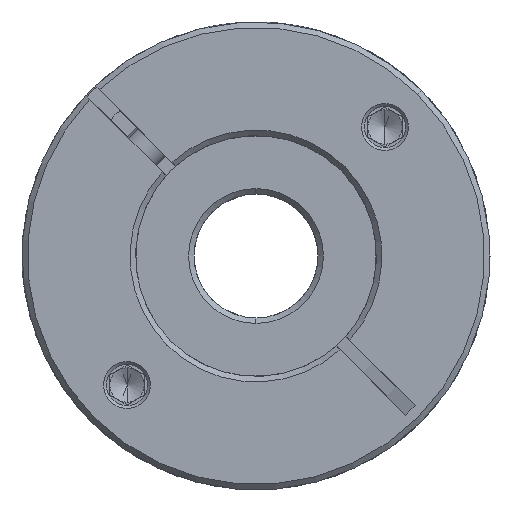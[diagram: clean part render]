
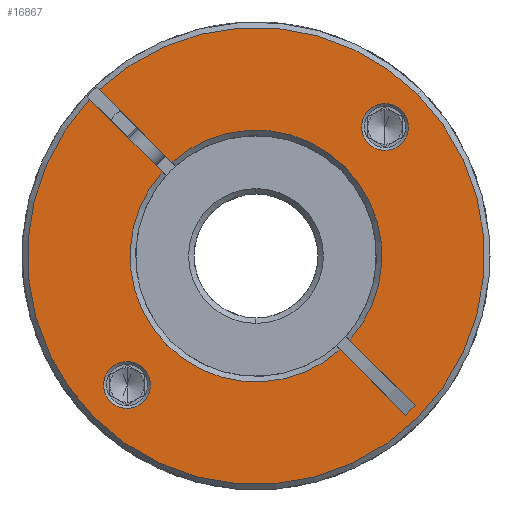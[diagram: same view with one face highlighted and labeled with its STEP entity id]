
A CAD part, front view. The second image highlights one B-rep face of the part: STEP entity #16867.
In plain terms, the highlighted planar face has unit normal (0, -1, 0).
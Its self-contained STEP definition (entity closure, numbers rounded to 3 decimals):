
#122 = EDGE_CURVE ( 'NONE', #346, #18845, #9893, .T. ) ;
#147 = CARTESIAN_POINT ( 'NONE',  ( 10.205, -67.045, 80.94 ) ) ;
#346 = VERTEX_POINT ( 'NONE', #14746 ) ;
#505 = CARTESIAN_POINT ( 'NONE',  ( -26.908, -67.045, 90.758 ) ) ;
#814 = LINE ( 'NONE', #5811, #21075 ) ;
#1003 = FACE_BOUND ( 'NONE', #8187, .T. ) ;
#1259 = CARTESIAN_POINT ( 'NONE',  ( -2.028, -67.045, 68.707 ) ) ;
#1485 = CIRCLE ( 'NONE', #18820, 3.4 ) ;
#1863 = DIRECTION ( 'NONE',  ( 0.707, 0., 0.707 ) ) ;
#1977 = AXIS2_PLACEMENT_3D ( 'NONE', #14212, #9259, #20815 ) ;
#2031 = CARTESIAN_POINT ( 'NONE',  ( -2.735, -67.045, 68. ) ) ;
#2118 = CIRCLE ( 'NONE', #9345, 18.3 ) ;
#2377 = DIRECTION ( 'NONE',  ( 0., 1., 0. ) ) ;
#2797 = DIRECTION ( 'NONE',  ( -0.707, 0., -0.707 ) ) ;
#2907 = AXIS2_PLACEMENT_3D ( 'NONE', #3929, #13861, #5727 ) ;
#3175 = ORIENTED_EDGE ( 'NONE', *, *, #8056, .T. ) ;
#3204 = AXIS2_PLACEMENT_3D ( 'NONE', #8767, #10440, #8906 ) ;
#3209 = CARTESIAN_POINT ( 'NONE',  ( -2.735, -67.045, 68. ) ) ;
#3246 = LINE ( 'NONE', #21304, #20839 ) ;
#3340 = CARTESIAN_POINT ( 'NONE',  ( -2.735, -67.045, 68. ) ) ;
#3376 = EDGE_CURVE ( 'NONE', #19504, #7277, #17495, .T. ) ;
#3463 = AXIS2_PLACEMENT_3D ( 'NONE', #4003, #7124, #5600 ) ;
#3766 = DIRECTION ( 'NONE',  ( 0., -1., 0. ) ) ;
#3802 = ORIENTED_EDGE ( 'NONE', *, *, #5898, .F. ) ;
#3929 = CARTESIAN_POINT ( 'NONE',  ( -2.735, -67.045, 68. ) ) ;
#3949 = ORIENTED_EDGE ( 'NONE', *, *, #10776, .T. ) ;
#4003 = CARTESIAN_POINT ( 'NONE',  ( -2.735, -67.045, 68. ) ) ;
#4128 = CARTESIAN_POINT ( 'NONE',  ( 16.003, -67.045, 86.738 ) ) ;
#4412 = ORIENTED_EDGE ( 'NONE', *, *, #5827, .T. ) ;
#5026 = DIRECTION ( 'NONE',  ( 0.707, 0., 0.707 ) ) ;
#5232 = AXIS2_PLACEMENT_3D ( 'NONE', #11805, #3766, #1863 ) ;
#5348 = CARTESIAN_POINT ( 'NONE',  ( -3.442, -67.045, 67.293 ) ) ;
#5422 = VERTEX_POINT ( 'NONE', #14050 ) ;
#5457 = AXIS2_PLACEMENT_3D ( 'NONE', #20432, #7364, #18300 ) ;
#5600 = DIRECTION ( 'NONE',  ( 0.707, 0., 0.707 ) ) ;
#5727 = DIRECTION ( 'NONE',  ( 0.707, 0., 0.707 ) ) ;
#5811 = CARTESIAN_POINT ( 'NONE',  ( 18.988, -67.045, 44.862 ) ) ;
#5827 = EDGE_CURVE ( 'NONE', #5422, #9278, #1485, .T. ) ;
#5898 = EDGE_CURVE ( 'NONE', #19961, #18845, #10348, .T. ) ;
#6132 = EDGE_LOOP ( 'NONE', ( #15378, #4412 ) ) ;
#6214 = DIRECTION ( 'NONE',  ( 0.707, 0., -0.707 ) ) ;
#6325 = CIRCLE ( 'NONE', #5457, 3.4 ) ;
#6900 = DIRECTION ( 'NONE',  ( 0.707, 0., 0.707 ) ) ;
#6930 = VERTEX_POINT ( 'NONE', #19768 ) ;
#7124 = DIRECTION ( 'NONE',  ( 0., -1., 0. ) ) ;
#7171 = CARTESIAN_POINT ( 'NONE',  ( -16.363, -67.045, 80.214 ) ) ;
#7241 = AXIS2_PLACEMENT_3D ( 'NONE', #15306, #18535, #15242 ) ;
#7277 = VERTEX_POINT ( 'NONE', #13211 ) ;
#7364 = DIRECTION ( 'NONE',  ( 0., 1., 0. ) ) ;
#7758 = CARTESIAN_POINT ( 'NONE',  ( -26.211, -67.045, 44.524 ) ) ;
#8015 = CARTESIAN_POINT ( 'NONE',  ( -25.493, -67.045, 92.172 ) ) ;
#8056 = EDGE_CURVE ( 'NONE', #7277, #9610, #18319, .T. ) ;
#8069 = EDGE_CURVE ( 'NONE', #6930, #9692, #10049, .T. ) ;
#8187 = EDGE_LOOP ( 'NONE', ( #9770, #20588 ) ) ;
#8767 = CARTESIAN_POINT ( 'NONE',  ( -2.735, -67.045, 68. ) ) ;
#8906 = DIRECTION ( 'NONE',  ( 0.707, 0., 0.707 ) ) ;
#9080 = FACE_OUTER_BOUND ( 'NONE', #15630, .T. ) ;
#9259 = DIRECTION ( 'NONE',  ( 0., 1., 0. ) ) ;
#9278 = VERTEX_POINT ( 'NONE', #15358 ) ;
#9345 = AXIS2_PLACEMENT_3D ( 'NONE', #3340, #16659, #10019 ) ;
#9407 = EDGE_CURVE ( 'NONE', #17053, #13087, #814, .T. ) ;
#9440 = EDGE_CURVE ( 'NONE', #9278, #5422, #6325, .T. ) ;
#9610 = VERTEX_POINT ( 'NONE', #8015 ) ;
#9692 = VERTEX_POINT ( 'NONE', #10782 ) ;
#9770 = ORIENTED_EDGE ( 'NONE', *, *, #8069, .T. ) ;
#9893 = CIRCLE ( 'NONE', #2907, 18.3 ) ;
#10010 = EDGE_CURVE ( 'NONE', #346, #13087, #13311, .T. ) ;
#10019 = DIRECTION ( 'NONE',  ( 0.707, 0., 0.707 ) ) ;
#10049 = CIRCLE ( 'NONE', #7241, 3.4 ) ;
#10256 = CARTESIAN_POINT ( 'NONE',  ( 10.893, -67.045, 55.786 ) ) ;
#10348 = LINE ( 'NONE', #20610, #14516 ) ;
#10440 = DIRECTION ( 'NONE',  ( 0., -1., 0. ) ) ;
#10544 = CARTESIAN_POINT ( 'NONE',  ( 18.988, -67.045, 44.862 ) ) ;
#10776 = EDGE_CURVE ( 'NONE', #9610, #18988, #11706, .T. ) ;
#10782 = CARTESIAN_POINT ( 'NONE',  ( -23.878, -67.045, 46.858 ) ) ;
#11327 = CARTESIAN_POINT ( 'NONE',  ( 20.402, -67.045, 46.277 ) ) ;
#11540 = ORIENTED_EDGE ( 'NONE', *, *, #3376, .T. ) ;
#11706 = LINE ( 'NONE', #1259, #14588 ) ;
#11786 = CIRCLE ( 'NONE', #16571, 18.3 ) ;
#11805 = CARTESIAN_POINT ( 'NONE',  ( -2.735, -67.045, 68. ) ) ;
#11855 = VERTEX_POINT ( 'NONE', #147 ) ;
#12449 = FACE_BOUND ( 'NONE', #6132, .T. ) ;
#13059 = EDGE_CURVE ( 'NONE', #18233, #17053, #3246, .T. ) ;
#13087 = VERTEX_POINT ( 'NONE', #10544 ) ;
#13211 = CARTESIAN_POINT ( 'NONE',  ( 20.741, -67.045, 91.476 ) ) ;
#13311 = LINE ( 'NONE', #5348, #21029 ) ;
#13337 = ORIENTED_EDGE ( 'NONE', *, *, #10010, .F. ) ;
#13861 = DIRECTION ( 'NONE',  ( 0., 1., 0. ) ) ;
#14050 = CARTESIAN_POINT ( 'NONE',  ( 13.599, -67.045, 84.334 ) ) ;
#14060 = CARTESIAN_POINT ( 'NONE',  ( -14.949, -67.045, 81.628 ) ) ;
#14166 = EDGE_CURVE ( 'NONE', #18988, #11855, #11786, .T. ) ;
#14212 = CARTESIAN_POINT ( 'NONE',  ( -21.473, -67.045, 49.262 ) ) ;
#14516 = VECTOR ( 'NONE', #17377, 1000. ) ;
#14588 = VECTOR ( 'NONE', #6214, 1000. ) ;
#14687 = EDGE_CURVE ( 'NONE', #9692, #6930, #19000, .T. ) ;
#14746 = CARTESIAN_POINT ( 'NONE',  ( 9.479, -67.045, 54.372 ) ) ;
#14825 = DIRECTION ( 'NONE',  ( 0., -1., 0. ) ) ;
#15186 = DIRECTION ( 'NONE',  ( 0., 1., 0. ) ) ;
#15242 = DIRECTION ( 'NONE',  ( 0.707, 0., 0.707 ) ) ;
#15306 = CARTESIAN_POINT ( 'NONE',  ( -21.473, -67.045, 49.262 ) ) ;
#15358 = CARTESIAN_POINT ( 'NONE',  ( 18.407, -67.045, 89.142 ) ) ;
#15378 = ORIENTED_EDGE ( 'NONE', *, *, #9440, .T. ) ;
#15394 = EDGE_CURVE ( 'NONE', #11855, #18233, #2118, .T. ) ;
#15630 = EDGE_LOOP ( 'NONE', ( #3802, #20369, #11540, #3175, #3949, #18957, #19243, #19465, #15815, #13337, #20484 ) ) ;
#15815 = ORIENTED_EDGE ( 'NONE', *, *, #9407, .T. ) ;
#16165 = AXIS2_PLACEMENT_3D ( 'NONE', #3209, #14825, #5026 ) ;
#16571 = AXIS2_PLACEMENT_3D ( 'NONE', #2031, #15186, #6900 ) ;
#16659 = DIRECTION ( 'NONE',  ( 0., 1., 0. ) ) ;
#16671 = CIRCLE ( 'NONE', #3463, 33.2 ) ;
#16867 = ADVANCED_FACE ( 'NONE', ( #12449, #1003, #9080 ), #20032, .T. ) ;
#17053 = VERTEX_POINT ( 'NONE', #11327 ) ;
#17377 = DIRECTION ( 'NONE',  ( 0.707, 0., -0.707 ) ) ;
#17495 = CIRCLE ( 'NONE', #16165, 33.2 ) ;
#18233 = VERTEX_POINT ( 'NONE', #10256 ) ;
#18300 = DIRECTION ( 'NONE',  ( 0.707, 0., 0.707 ) ) ;
#18319 = CIRCLE ( 'NONE', #3204, 33.2 ) ;
#18324 = EDGE_CURVE ( 'NONE', #19961, #19504, #16671, .T. ) ;
#18535 = DIRECTION ( 'NONE',  ( 0., 1., 0. ) ) ;
#18820 = AXIS2_PLACEMENT_3D ( 'NONE', #4128, #2377, #20686 ) ;
#18845 = VERTEX_POINT ( 'NONE', #7171 ) ;
#18957 = ORIENTED_EDGE ( 'NONE', *, *, #14166, .T. ) ;
#18988 = VERTEX_POINT ( 'NONE', #14060 ) ;
#19000 = CIRCLE ( 'NONE', #1977, 3.4 ) ;
#19243 = ORIENTED_EDGE ( 'NONE', *, *, #15394, .T. ) ;
#19465 = ORIENTED_EDGE ( 'NONE', *, *, #13059, .T. ) ;
#19504 = VERTEX_POINT ( 'NONE', #7758 ) ;
#19570 = DIRECTION ( 'NONE',  ( 0.707, 0., -0.707 ) ) ;
#19768 = CARTESIAN_POINT ( 'NONE',  ( -19.069, -67.045, 51.666 ) ) ;
#19961 = VERTEX_POINT ( 'NONE', #505 ) ;
#20032 = PLANE ( 'NONE',  #5232 ) ;
#20369 = ORIENTED_EDGE ( 'NONE', *, *, #18324, .T. ) ;
#20432 = CARTESIAN_POINT ( 'NONE',  ( 16.003, -67.045, 86.738 ) ) ;
#20484 = ORIENTED_EDGE ( 'NONE', *, *, #122, .T. ) ;
#20496 = DIRECTION ( 'NONE',  ( 0.707, 0., -0.707 ) ) ;
#20588 = ORIENTED_EDGE ( 'NONE', *, *, #14687, .T. ) ;
#20610 = CARTESIAN_POINT ( 'NONE',  ( -3.442, -67.045, 67.293 ) ) ;
#20686 = DIRECTION ( 'NONE',  ( 0.707, 0., 0.707 ) ) ;
#20815 = DIRECTION ( 'NONE',  ( 0.707, 0., 0.707 ) ) ;
#20839 = VECTOR ( 'NONE', #19570, 1000. ) ;
#21029 = VECTOR ( 'NONE', #20496, 1000. ) ;
#21075 = VECTOR ( 'NONE', #2797, 1000. ) ;
#21304 = CARTESIAN_POINT ( 'NONE',  ( -2.028, -67.045, 68.707 ) ) ;
